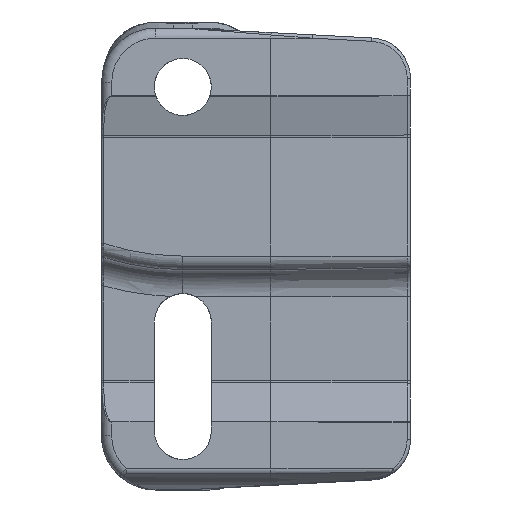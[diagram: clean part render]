
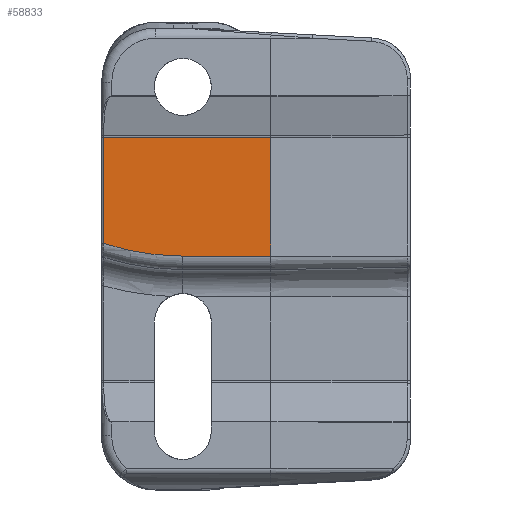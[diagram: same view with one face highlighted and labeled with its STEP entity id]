
A CAD part, left-side view. The second image highlights one B-rep face of the part: STEP entity #58833.
In plain terms, the highlighted planar face has unit normal (-1, 0, 0).
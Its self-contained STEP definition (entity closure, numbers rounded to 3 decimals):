
#13941=DIRECTION('',(0.,-1.,0.));
#13942=VECTOR('',#13941,6.5);
#13943=CARTESIAN_POINT('',(80.304,0.,0.566));
#13944=LINE('',#13943,#13942);
#13950=CARTESIAN_POINT('',(80.304,0.,19.316));
#13951=DIRECTION('',(1.,0.,0.));
#13952=DIRECTION('',(0.,0.,-1.));
#13953=AXIS2_PLACEMENT_3D('',#13950,#13951,#13952);
#13955=DIRECTION('',(0.,0.,-1.));
#13956=VECTOR('',#13955,7.836);
#13957=CARTESIAN_POINT('',(80.304,5.85,9.338));
#13958=LINE('',#13957,#13956);
#13959=DIRECTION('',(0.,-1.,0.));
#13960=VECTOR('',#13959,12.35);
#13961=CARTESIAN_POINT('',(80.304,5.85,9.338));
#13962=LINE('',#13961,#13960);
#13963=DIRECTION('',(0.,0.,1.));
#13964=VECTOR('',#13963,8.772);
#13965=CARTESIAN_POINT('',(80.304,-6.5,0.566));
#13966=LINE('',#13965,#13964);
#33681=CARTESIAN_POINT('',(80.304,5.85,9.338));
#33682=VERTEX_POINT('',#33681);
#33685=CARTESIAN_POINT('',(80.304,5.85,1.502));
#33686=VERTEX_POINT('',#33685);
#33723=CARTESIAN_POINT('',(80.304,0.,0.566));
#33724=VERTEX_POINT('',#33723);
#33910=CARTESIAN_POINT('',(80.304,-6.5,0.566));
#33911=CARTESIAN_POINT('',(80.304,-6.5,9.338));
#33912=VERTEX_POINT('',#33910);
#33913=VERTEX_POINT('',#33911);
#58820=CARTESIAN_POINT('',(80.304,-6.,1.05));
#58821=DIRECTION('',(-1.,0.,0.));
#58822=DIRECTION('',(0.,0.,1.));
#58823=AXIS2_PLACEMENT_3D('',#58820,#58821,#58822);
#58824=PLANE('',#58823);
#58825=ORIENTED_EDGE('',*,*,#58814,.F.);
#58826=ORIENTED_EDGE('',*,*,#58802,.T.);
#58828=ORIENTED_EDGE('',*,*,#58827,.F.);
#58829=ORIENTED_EDGE('',*,*,#58616,.T.);
#58830=ORIENTED_EDGE('',*,*,#58645,.F.);
#58831=EDGE_LOOP('',(#58825,#58826,#58828,#58829,#58830));
#58832=FACE_OUTER_BOUND('',#58831,.F.);
#13954=CIRCLE('',#13953,18.75);
#58616=EDGE_CURVE('',#33682,#33913,#13962,.T.);
#58645=EDGE_CURVE('',#33912,#33913,#13966,.T.);
#58802=EDGE_CURVE('',#33724,#33686,#13954,.T.);
#58814=EDGE_CURVE('',#33724,#33912,#13944,.T.);
#58827=EDGE_CURVE('',#33682,#33686,#13958,.T.);
#58833=ADVANCED_FACE('',(#58832),#58824,.T.);
